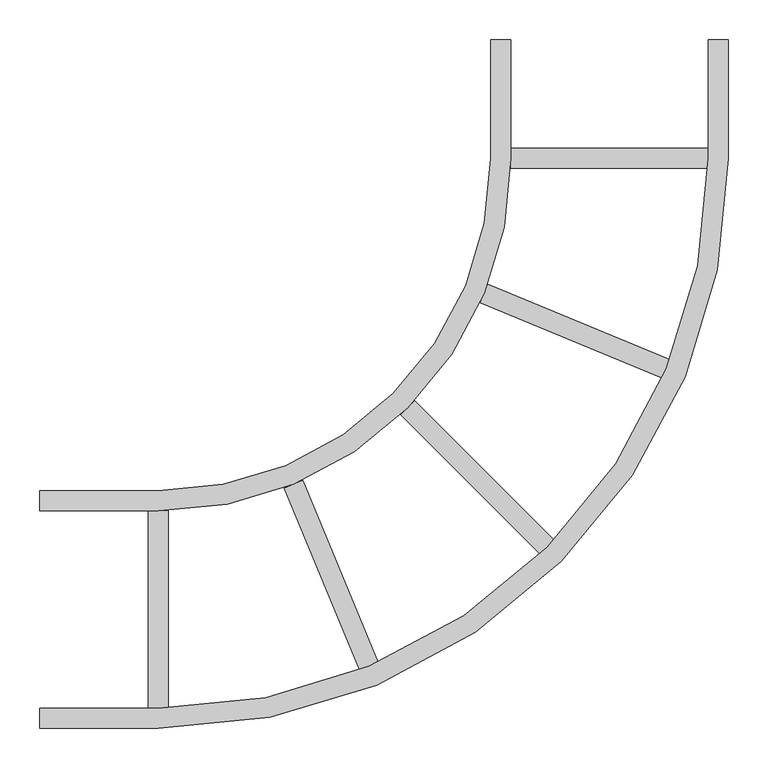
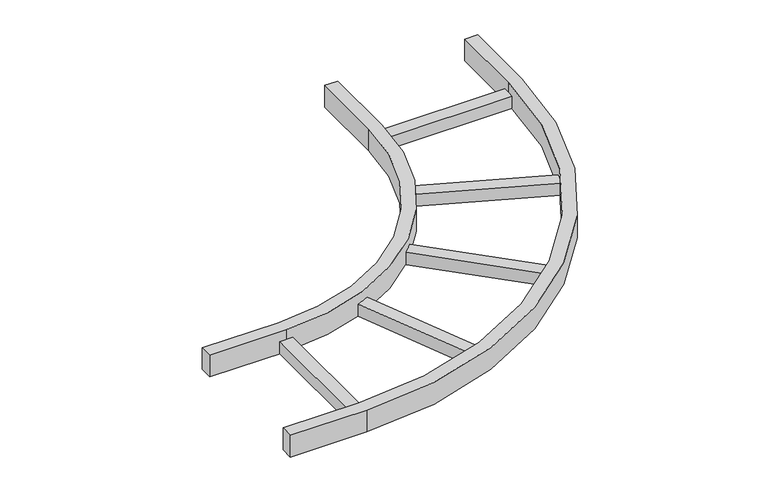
"""IFC4 building model written with IfcOpenShell, lengths in millimetres: cable carrier fitting geometry, BAKS_LD_BEND_Horizontal bend_LD : LDC_H45."""

import ifcopenshell
import ifcopenshell.guid

model = None  # the IFC model being written
_history = None  # IfcOwnerHistory: only IFC2X3 demands one
_inside = {}  # id of a spatial element -> (the spatial element, [elements in it])
_under = {}  # id of a project, library or spatial element -> (it, [spatial elements below it])
_declared = {}  # id of a project -> (the project, [libraries it declares])
_typed = {}  # id of a type object -> (the type object, [elements of that type])
_made_of = {}  # id of a material, layer set ... -> (it, [elements and type objects made of it])


def new_model(schema):
    """Start an empty IFC model of exactly this schema.

    Asked for "IFC4X3", IfcOpenShell would pick the latest addendum, in which some entities
    have other attributes; the version numbers below select the first issue.
    IFC2X3 requires an IfcOwnerHistory on every rooted entity: one is made here for all.
    """
    global model, _history
    if schema == "IFC4X3":
        model = ifcopenshell.file(schema_version=(4, 3, 0, 0))
    else:
        model = ifcopenshell.file(schema=schema)
    _inside.clear()
    _under.clear()
    _declared.clear()
    _typed.clear()
    _made_of.clear()
    _history = None
    if model.schema == "IFC2X3":
        org = make("IfcOrganization", Name="unknown")
        user = make(
            "IfcPersonAndOrganization",
            ThePerson=make("IfcPerson", FamilyName="unknown"),
            TheOrganization=org,
        )
        app = make(
            "IfcApplication",
            ApplicationDeveloper=org,
            Version="unknown",
            ApplicationFullName="unknown",
            ApplicationIdentifier="unknown",
        )
        _history = make(
            "IfcOwnerHistory",
            OwningUser=user,
            OwningApplication=app,
            ChangeAction="ADDED",
            CreationDate=0,
        )
    return model


def make(cls, **values):
    """One entity of the class cls with the attributes given. An attribute that is None is left unset."""
    return model.create_entity(
        cls, **{name: value for name, value in values.items() if value is not None}
    )


def rooted(cls, **values):
    """An entity with a GlobalId (a new one), such as an element, a storey or a relation."""
    return make(cls, GlobalId=ifcopenshell.guid.new(), OwnerHistory=_history, **values)


def si_unit(unit_type, name, prefix=None):
    """IfcSIUnit, for example si_unit("LENGTHUNIT", "METRE", prefix="MILLI")."""
    return make("IfcSIUnit", UnitType=unit_type, Prefix=prefix, Name=name)


def assignment(units):
    """IfcUnitAssignment: the units of a project."""
    return None if units is None else make("IfcUnitAssignment", Units=units)


def point(xyz):
    """IfcCartesianPoint."""
    return None if xyz is None else make("IfcCartesianPoint", Coordinates=xyz)


def direction(xyz):
    """IfcDirection."""
    return None if xyz is None else make("IfcDirection", DirectionRatios=xyz)


def frame(location, z_axis=None, x_axis=None):
    """IfcAxis2Placement3D, a coordinate frame: its origin and axes. An axis left out is left unset."""
    return make(
        "IfcAxis2Placement3D",
        Location=point(location),
        Axis=direction(z_axis),
        RefDirection=direction(x_axis),
    )


def frame_2d(location, x_axis=None):
    """IfcAxis2Placement2D, a coordinate frame in the plane: its origin and x axis."""
    return make(
        "IfcAxis2Placement2D", Location=point(location), RefDirection=direction(x_axis)
    )


def origin():
    """The frame at (0, 0, 0) with its axes left unset."""
    return frame((0.0, 0.0, 0.0))


def place(relative_to, where):
    """IfcLocalPlacement: puts the frame where relative to a parent placement (None: the world)."""
    return make(
        "IfcLocalPlacement", PlacementRelTo=relative_to, RelativePlacement=where
    )


def context(
    kind, dimensions, precision=None, world=None, true_north=None, identifier=None
):
    """IfcGeometricRepresentationContext, for example the 3D "Model" context."""
    return make(
        "IfcGeometricRepresentationContext",
        ContextIdentifier=identifier,
        ContextType=kind,
        CoordinateSpaceDimension=dimensions,
        Precision=precision,
        WorldCoordinateSystem=world,
        TrueNorth=true_north,
    )


def project(units=None, contexts=None):
    """IfcProject with its units and contexts."""
    return rooted(
        "IfcProject",
        Name="project",
        RepresentationContexts=contexts,
        UnitsInContext=assignment(units),
    )


def spatial(cls, under=None, at=None, **own):
    """A site, building, storey or space (cls), placed at a placement, below another one or the project."""
    s = rooted(cls, ObjectPlacement=at, **own)
    if under is not None:
        _under.setdefault(under.id(), (under, []))[1].append(s)
    return s


def polyline(points):
    """IfcPolyline through the points."""
    return make("IfcPolyline", Points=[point(p) for p in points])


def circle_curve(where, radius):
    """IfcCircle in the frame where."""
    return make("IfcCircle", Position=where, Radius=radius)


def trimmed(basis, trim1, trim2, sense, master):
    """IfcTrimmedCurve: the piece of a basis curve between two trims."""
    return make(
        "IfcTrimmedCurve",
        BasisCurve=basis,
        Trim1=trim1,
        Trim2=trim2,
        SenseAgreement=sense,
        MasterRepresentation=master,
    )


def segment(curve, same_sense, transition):
    """IfcCompositeCurveSegment."""
    return make(
        "IfcCompositeCurveSegment",
        Transition=transition,
        SameSense=same_sense,
        ParentCurve=curve,
    )


def composite_curve(segments, self_intersect=None):
    """IfcCompositeCurve: segments joined end to end."""
    return make("IfcCompositeCurve", Segments=segments, SelfIntersect=self_intersect)


def outline(outer, holes=None, kind="AREA"):
    """IfcArbitraryClosedProfileDef: a profile drawn as a closed curve; with holes, ...WithVoids."""
    if holes is None:
        return make("IfcArbitraryClosedProfileDef", ProfileType=kind, OuterCurve=outer)
    return make(
        "IfcArbitraryProfileDefWithVoids",
        ProfileType=kind,
        OuterCurve=outer,
        InnerCurves=holes,
    )


def extrude(swept, where, along, depth):
    """IfcExtrudedAreaSolid: the profile swept, set in the frame where, extruded along a direction by depth."""
    return make(
        "IfcExtrudedAreaSolid",
        SweptArea=swept,
        Position=where,
        ExtrudedDirection=direction(along),
        Depth=depth,
    )


def shape(context_of_items, identifier, shape_type, items):
    """IfcShapeRepresentation: the items that make up one representation, for example the "Body"."""
    return make(
        "IfcShapeRepresentation",
        ContextOfItems=context_of_items,
        RepresentationIdentifier=identifier,
        RepresentationType=shape_type,
        Items=items,
    )


def source(mapping_origin, context_of_items, identifier, shape_type, items):
    """IfcRepresentationMap: a shape defined once, which mapped items show again and again."""
    return make(
        "IfcRepresentationMap",
        MappingOrigin=mapping_origin,
        MappedRepresentation=shape(context_of_items, identifier, shape_type, items),
    )


def transform(
    local_origin,
    x_axis=None,
    y_axis=None,
    z_axis=None,
    scale=None,
    scale2=None,
    scale3=None,
    uniform=True,
):
    """IfcCartesianTransformationOperator3D, or its non-uniform kind. x_axis, y_axis, z_axis: its Axis1, 2, 3."""
    if uniform:
        return make(
            "IfcCartesianTransformationOperator3D",
            Axis1=direction(x_axis),
            Axis2=direction(y_axis),
            LocalOrigin=point(local_origin),
            Scale=scale,
            Axis3=direction(z_axis),
        )
    return make(
        "IfcCartesianTransformationOperator3DnonUniform",
        Axis1=direction(x_axis),
        Axis2=direction(y_axis),
        LocalOrigin=point(local_origin),
        Scale=scale,
        Axis3=direction(z_axis),
        Scale2=scale2,
        Scale3=scale3,
    )


def mapped(mapping_source, mapping_target):
    """IfcMappedItem: shows the shape of a source again, moved by a transform."""
    return make(
        "IfcMappedItem", MappingSource=mapping_source, MappingTarget=mapping_target
    )


def made_of(thing, what):
    """Note that an element or type object is made of a material, layer set ...; save() writes the relation."""
    if what is not None:
        _made_of.setdefault(what.id(), (what, []))[1].append(thing)
    return thing


def element(
    cls,
    number,
    at=None,
    inside=None,
    cuts=None,
    type_object=None,
    material=None,
    context=None,
    identifier="Body",
    shape_type=None,
    held_by="IfcProductDefinitionShape",
    body=None,
    shapes=None,
    **own,
):
    """One element of the class cls, such as IfcWall. Its Tag is "e" and its number.

    at: its placement. inside: the storey or other place that contains it. cuts: it is an
    opening in that element (IfcRelVoidsElement). A single representation is given by context,
    identifier, shape_type and body (its items); several are given by shapes. held_by: the class
    of the entity that holds the representations. save() writes the other relations.
    """
    e = rooted(cls, Tag="e%d" % number, ObjectPlacement=at, **own)
    if body is not None:
        shapes = [shape(context, identifier, shape_type, body)]
    if shapes is not None:
        e.Representation = make(held_by, Representations=shapes)
    if inside is not None:
        _inside.setdefault(inside.id(), (inside, []))[1].append(e)
    if cuts is not None:
        rooted(
            "IfcRelVoidsElement", RelatingBuildingElement=cuts, RelatedOpeningElement=e
        )
    if type_object is not None:
        _typed.setdefault(type_object.id(), (type_object, []))[1].append(e)
    return made_of(e, material)


def aggregate(whole, parts):
    """IfcRelAggregates: a whole, such as a stair, and the parts it consists of."""
    return rooted("IfcRelAggregates", RelatingObject=whole, RelatedObjects=parts)


def save(model, path):
    """Write the relations noted so far, then the file.

    IfcRelAggregates (storeys below a building ...), IfcRelContainedInSpatialStructure (elements
    in a storey), IfcRelDefinesByType, IfcRelAssociatesMaterial and IfcRelDeclares: one each for
    every whole, place, type object, material and project.
    """
    for whole, parts in _under.values():
        aggregate(whole, parts)
    for where, things in _inside.values():
        rooted(
            "IfcRelContainedInSpatialStructure",
            RelatedElements=things,
            RelatingStructure=where,
        )
    for kind, things in _typed.values():
        rooted("IfcRelDefinesByType", RelatedObjects=things, RelatingType=kind)
    for what, things in _made_of.values():
        rooted("IfcRelAssociatesMaterial", RelatedObjects=things, RelatingMaterial=what)
    for by, libraries in _declared.values():
        rooted("IfcRelDeclares", RelatingContext=by, RelatedDefinitions=libraries)
    model.write(path)


def cable_carrier_fitting_8b1f635d(model_context):
    return source(origin(), model_context, "Body", "SweptSolid", [
        extrude(outline(polyline([(-163.3641358, 387.8195292), (-153.6439766, 411.2860693), (76.5868029, 315.9213579), (66.8666437, 292.4548178), (-163.3641358, 387.8195292)])), frame((0.0, 0.0, -22.5), z_axis=(0.0, 0.0, 1.0), x_axis=(1.0, 0.0, 0.0)), (0.0, 0.0, 1.0), 25.4),
        extrude(outline(polyline([(-411.2860693, 153.6439766), (-387.8195292, 163.3641358), (-292.4548178, -66.8666437), (-315.9213579, -76.5868029), (-411.2860693, 153.6439766)])), frame((0.0, 0.0, -22.5), z_axis=(0.0, 0.0, 1.0), x_axis=(1.0, 0.0, 0.0)), (0.0, 0.0, 1.0), 25.4),
        extrude(outline(polyline([(-124.6, 557.3), (-124.6, 582.7), (124.6, 582.7), (124.6, 557.3), (-124.6, 557.3)])), frame((0.0, 0.0, -22.5), z_axis=(0.0, 0.0, 1.0), x_axis=(1.0, 0.0, 0.0)), (0.0, 0.0, 1.0), 25.4),
        extrude(outline(polyline([(-582.7, 124.6), (-557.3, 124.6), (-557.3, -124.6), (-582.7, -124.6), (-582.7, 124.6)])), frame((0.0, 0.0, -22.5), z_axis=(0.0, 0.0, 1.0), x_axis=(1.0, 0.0, 0.0)), (0.0, 0.0, 1.0), 25.4),
        extrude(outline(polyline([(-264.0348958, 246.0743835), (-246.0743835, 264.0348958), (-69.8633737, 87.8238859), (-87.8238859, 69.8633737), (-264.0348958, 246.0743835)])), frame((0.0, 0.0, -22.5), z_axis=(0.0, 0.0, 1.0), x_axis=(1.0, 0.0, 0.0)), (0.0, 0.0, 1.0), 25.4),
        extrude(outline(composite_curve([segment(polyline([(-720.0, -150.0), (-720.0, -124.6), (-570.0, -124.6)]), True, "CONTINUOUS"), segment(trimmed(circle_curve(frame_2d((-570.0, 570.0)), 694.6), [point((-570.0, -124.6))], [point((124.6, 570.0))], True, "CARTESIAN"), True, "CONTINUOUS"), segment(polyline([(124.6, 570.0), (124.6, 720.0), (150.0, 720.0), (150.0, 570.0)]), True, "CONTINUOUS"), segment(trimmed(circle_curve(frame_2d((-570.0, 570.0)), 720.0), [point((150.0, 570.0))], [point((-570.0, -150.0))], False, "CARTESIAN"), True, "CONTINUOUS"), segment(polyline([(-570.0, -150.0), (-720.0, -150.0)]), True, "CONTINUOUS")], self_intersect=False)), frame((0.0, 0.0, -22.5), z_axis=(0.0, 0.0, 1.0), x_axis=(1.0, 0.0, 0.0)), (0.0, 0.0, 1.0), 45.0),
        extrude(outline(composite_curve([segment(polyline([(-720.0, 124.6), (-720.0, 150.0), (-570.0, 150.0)]), True, "CONTINUOUS"), segment(trimmed(circle_curve(frame_2d((-570.0, 570.0)), 420.0), [point((-570.0, 150.0))], [point((-150.0, 570.0))], True, "CARTESIAN"), True, "CONTINUOUS"), segment(polyline([(-150.0, 570.0), (-150.0, 720.0), (-124.6, 720.0), (-124.6, 570.0)]), True, "CONTINUOUS"), segment(trimmed(circle_curve(frame_2d((-570.0, 570.0)), 445.4), [point((-124.6, 570.0))], [point((-570.0, 124.6))], False, "CARTESIAN"), True, "CONTINUOUS"), segment(polyline([(-570.0, 124.6), (-720.0, 124.6)]), True, "CONTINUOUS")], self_intersect=False)), frame((0.0, 0.0, -22.5), z_axis=(0.0, 0.0, 1.0), x_axis=(1.0, 0.0, 0.0)), (0.0, 0.0, 1.0), 45.0),
    ])


if __name__ == "__main__":
    model = new_model("IFC4")
    model_context = context("Model", 3, world=origin())
    ifc_project = project(units=[si_unit("LENGTHUNIT", "METRE", prefix="MILLI")], contexts=[model_context])
    site = spatial("IfcSite", under=ifc_project)
    building = spatial("IfcBuilding", under=site)
    placement = place(None, origin())
    cable_carrier_fitting_shape = cable_carrier_fitting_8b1f635d(model_context)
    element("IfcCableCarrierFitting", 1, ObjectType="BAKS_LD_BEND_Horizontal bend_LD : LDC_H45", at=placement, inside=building, context=model_context, shape_type="MappedRepresentation", body=[
        mapped(cable_carrier_fitting_shape, transform((0.0, 0.0, 0.0), x_axis=(1.0, 0.0, 0.0), y_axis=(0.0, 1.0, 0.0), z_axis=(0.0, 0.0, 1.0))),
    ])
    save(model, "model.ifc")
